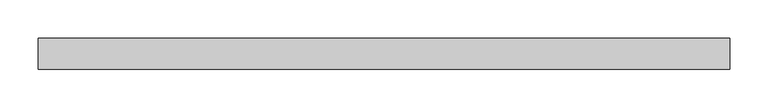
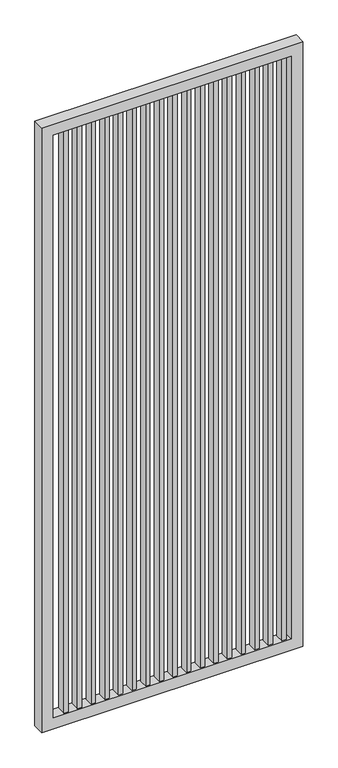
"""IFC4 building model written with IfcOpenShell, lengths in millimetres: proxy geometry, Renson_Amani_Loggia_Linea_Fix : Renson_Amani_Loggia_Linea_Fix."""

from ifc_helpers import new_model, si_unit, frame, origin, place, context, project, spatial, polyline, outline, extrude, source, transform, mapped, element, save


def generic_models_d49357c6(model_context):
    return source(origin(), model_context, "Body", "SweptSolid", [
        extrude(outline(polyline([(396.5, 15.0), (396.5, -15.0), (381.5, -15.0), (381.5, 15.0), (396.5, 15.0)])), frame((0.0, 0.0, 85.0), z_axis=(0.0, 0.0, 1.0), x_axis=(1.0, 0.0, 0.0)), (0.0, 0.0, 1.0), 2125.0),
        extrude(outline(polyline([(349.5, 15.0), (349.5, -15.0), (334.5, -15.0), (334.5, 15.0), (349.5, 15.0)])), frame((0.0, 0.0, 85.0), z_axis=(0.0, 0.0, 1.0), x_axis=(1.0, 0.0, 0.0)), (0.0, 0.0, 1.0), 2125.0),
        extrude(outline(polyline([(302.5, 15.0), (302.5, -15.0), (287.5, -15.0), (287.5, 15.0), (302.5, 15.0)])), frame((0.0, 0.0, 85.0), z_axis=(0.0, 0.0, 1.0), x_axis=(1.0, 0.0, 0.0)), (0.0, 0.0, 1.0), 2125.0),
        extrude(outline(polyline([(255.5, 15.0), (255.5, -15.0), (240.5, -15.0), (240.5, 15.0), (255.5, 15.0)])), frame((0.0, 0.0, 85.0), z_axis=(0.0, 0.0, 1.0), x_axis=(1.0, 0.0, 0.0)), (0.0, 0.0, 1.0), 2125.0),
        extrude(outline(polyline([(208.5, 15.0), (208.5, -15.0), (193.5, -15.0), (193.5, 15.0), (208.5, 15.0)])), frame((0.0, 0.0, 85.0), z_axis=(0.0, 0.0, 1.0), x_axis=(1.0, 0.0, 0.0)), (0.0, 0.0, 1.0), 2125.0),
        extrude(outline(polyline([(161.5, 15.0), (161.5, -15.0), (146.5, -15.0), (146.5, 15.0), (161.5, 15.0)])), frame((0.0, 0.0, 85.0), z_axis=(0.0, 0.0, 1.0), x_axis=(1.0, 0.0, 0.0)), (0.0, 0.0, 1.0), 2125.0),
        extrude(outline(polyline([(114.5, 15.0), (114.5, -15.0), (99.5, -15.0), (99.5, 15.0), (114.5, 15.0)])), frame((0.0, 0.0, 85.0), z_axis=(0.0, 0.0, 1.0), x_axis=(1.0, 0.0, 0.0)), (0.0, 0.0, 1.0), 2125.0),
        extrude(outline(polyline([(67.5, 15.0), (67.5, -15.0), (52.5, -15.0), (52.5, 15.0), (67.5, 15.0)])), frame((0.0, 0.0, 85.0), z_axis=(0.0, 0.0, 1.0), x_axis=(1.0, 0.0, 0.0)), (0.0, 0.0, 1.0), 2125.0),
        extrude(outline(polyline([(20.5, 15.0), (20.5, -15.0), (5.5, -15.0), (5.5, 15.0), (20.5, 15.0)])), frame((0.0, 0.0, 85.0), z_axis=(0.0, 0.0, 1.0), x_axis=(1.0, 0.0, 0.0)), (0.0, 0.0, 1.0), 2125.0),
        extrude(outline(polyline([(-26.5, 15.0), (-26.5, -15.0), (-41.5, -15.0), (-41.5, 15.0), (-26.5, 15.0)])), frame((0.0, 0.0, 85.0), z_axis=(0.0, 0.0, 1.0), x_axis=(1.0, 0.0, 0.0)), (0.0, 0.0, 1.0), 2125.0),
        extrude(outline(polyline([(-73.5, 15.0), (-73.5, -15.0), (-88.5, -15.0), (-88.5, 15.0), (-73.5, 15.0)])), frame((0.0, 0.0, 85.0), z_axis=(0.0, 0.0, 1.0), x_axis=(1.0, 0.0, 0.0)), (0.0, 0.0, 1.0), 2125.0),
        extrude(outline(polyline([(-120.5, 15.0), (-120.5, -15.0), (-135.5, -15.0), (-135.5, 15.0), (-120.5, 15.0)])), frame((0.0, 0.0, 85.0), z_axis=(0.0, 0.0, 1.0), x_axis=(1.0, 0.0, 0.0)), (0.0, 0.0, 1.0), 2125.0),
        extrude(outline(polyline([(-167.5, 15.0), (-167.5, -15.0), (-182.5, -15.0), (-182.5, 15.0), (-167.5, 15.0)])), frame((0.0, 0.0, 85.0), z_axis=(0.0, 0.0, 1.0), x_axis=(1.0, 0.0, 0.0)), (0.0, 0.0, 1.0), 2125.0),
        extrude(outline(polyline([(-214.5, 15.0), (-214.5, -15.0), (-229.5, -15.0), (-229.5, 15.0), (-214.5, 15.0)])), frame((0.0, 0.0, 85.0), z_axis=(0.0, 0.0, 1.0), x_axis=(1.0, 0.0, 0.0)), (0.0, 0.0, 1.0), 2125.0),
        extrude(outline(polyline([(-261.5, 15.0), (-261.5, -15.0), (-276.5, -15.0), (-276.5, 15.0), (-261.5, 15.0)])), frame((0.0, 0.0, 85.0), z_axis=(0.0, 0.0, 1.0), x_axis=(1.0, 0.0, 0.0)), (0.0, 0.0, 1.0), 2125.0),
        extrude(outline(polyline([(-308.5, 15.0), (-308.5, -15.0), (-323.5, -15.0), (-323.5, 15.0), (-308.5, 15.0)])), frame((0.0, 0.0, 85.0), z_axis=(0.0, 0.0, 1.0), x_axis=(1.0, 0.0, 0.0)), (0.0, 0.0, 1.0), 2125.0),
        extrude(outline(polyline([(-355.5, 15.0), (-355.5, -15.0), (-370.5, -15.0), (-370.5, 15.0), (-355.5, 15.0)])), frame((0.0, 0.0, 85.0), z_axis=(0.0, 0.0, 1.0), x_axis=(1.0, 0.0, 0.0)), (0.0, 0.0, 1.0), 2125.0),
        extrude(outline(polyline([(2250.0, -450.0), (45.0, -450.0), (45.0, 450.0), (2250.0, 450.0), (2250.0, -450.0)]), holes=[polyline([(2210.0, 410.0), (85.0, 410.0), (85.0, -410.0), (2210.0, -410.0), (2210.0, 410.0)])]), frame((0.0, -20.0, 0.0), z_axis=(0.0, 1.0, 0.0), x_axis=(0.0, 0.0, 1.0)), (0.0, 0.0, 1.0), 40.0),
    ])


if __name__ == "__main__":
    model = new_model("IFC4")
    model_context = context("Model", 3, world=origin())
    ifc_project = project(units=[si_unit("LENGTHUNIT", "METRE", prefix="MILLI")], contexts=[model_context])
    site = spatial("IfcSite", under=ifc_project)
    building = spatial("IfcBuilding", under=site)
    placement = place(None, origin())
    generic_models_shape = generic_models_d49357c6(model_context)
    element("IfcBuildingElementProxy", 1, Name="Renson_Amani_Loggia_Linea_Fix : Renson_Amani_Loggia_Linea_Fix", ObjectType="Renson_Amani_Loggia_Linea_Fix : Renson_Amani_Loggia_Linea_Fix", at=placement, inside=building, context=model_context, shape_type="MappedRepresentation", body=[
        mapped(generic_models_shape, transform((0.0, 0.0, 0.0), x_axis=(1.0, 0.0, 0.0), y_axis=(0.0, 1.0, 0.0), z_axis=(0.0, 0.0, 1.0))),
    ])
    save(model, "model.ifc")
